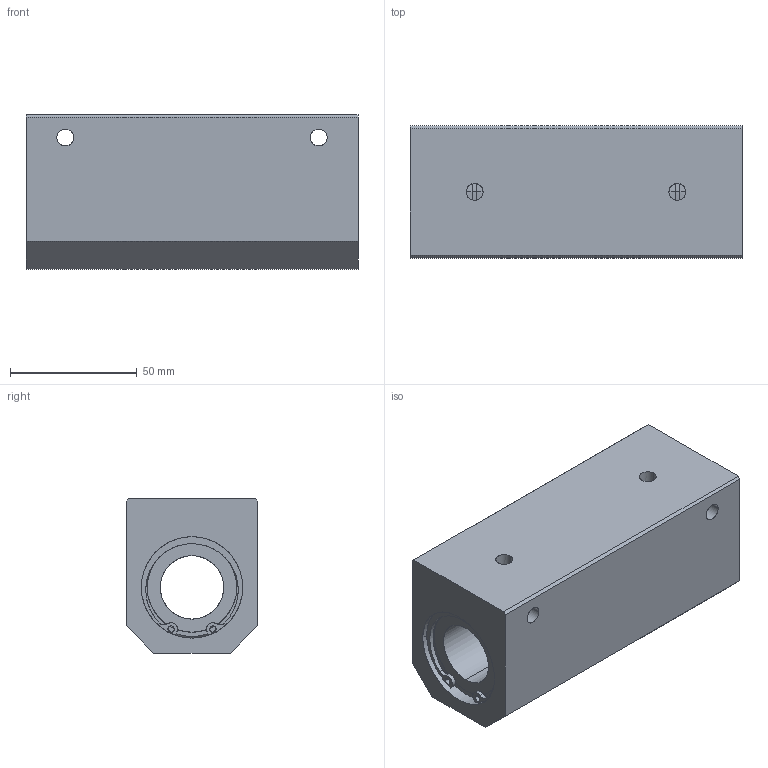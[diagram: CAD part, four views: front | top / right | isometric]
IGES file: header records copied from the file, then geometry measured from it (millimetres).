
Global section: file name: No Iges File Name specified; native system: AutoDesk Inventor R10; preprocessor: AutoDesk Inventor Iges Exporter R10; author: No Author specified; organization: No Organization specified; date: 20101216.152505; units: millimetre
Bounding box: 131 x 52 x 61 mm (x, y, z)
Surface area: 48875.6 mm2 (no closed solid volume)
Topology: 0 solids, 0 shells, 108 faces, 848 edges, 848 vertices
Faces by surface type: bspline 108
